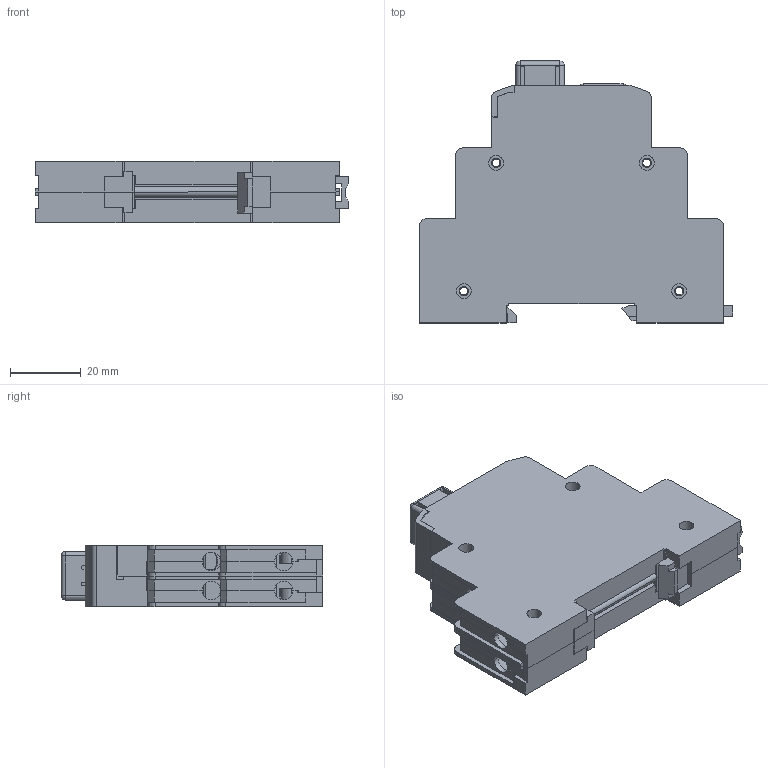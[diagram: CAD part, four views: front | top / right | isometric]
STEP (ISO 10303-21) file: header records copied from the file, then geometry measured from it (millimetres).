
FILE_DESCRIPTION (( 'STEP AP214' ), '1' );
FILE_NAME ('MTX.step', '2011-08-08T07:15:47', ( 'Radek Veselý' ), ( 'Siemens and Partners' ), 'SwSTEP 2.0', 'SolidWorks 2006303', '' );
FILE_SCHEMA (( 'AUTOMOTIVE_DESIGN' ));
Length unit declared in the file: millimetre
Products named in the file (1): MTX
Bounding box: 88.57 x 74.09 x 17.5 mm (x, y, z)
Volume: 33623.8 mm3; surface area: 48585.3 mm2
Topology: 13 solids, 13 shells, 2077 faces, 5676 edges, 3644 vertices
Faces by surface type: plane 1345, cylinder 582, cone 66, bspline 54, torus 22, sphere 8
Entity records: 89030 total; most frequent: CARTESIAN_POINT 13218, ORIENTED_EDGE 11288, DIRECTION 10730, EDGE_CURVE 5644, VECTOR 4110, LINE 4110, VERTEX_POINT 3644, AXIS2_PLACEMENT_3D 3310
